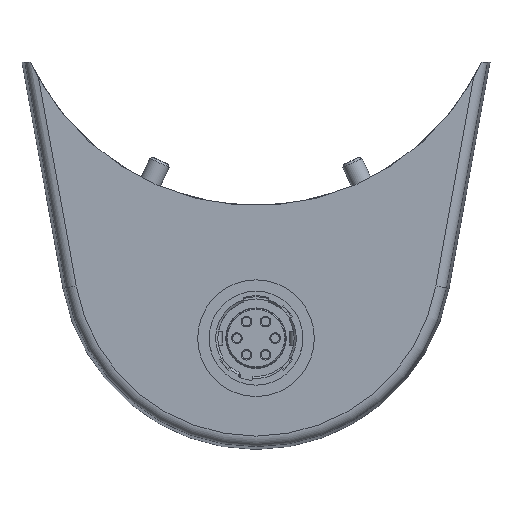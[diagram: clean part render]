
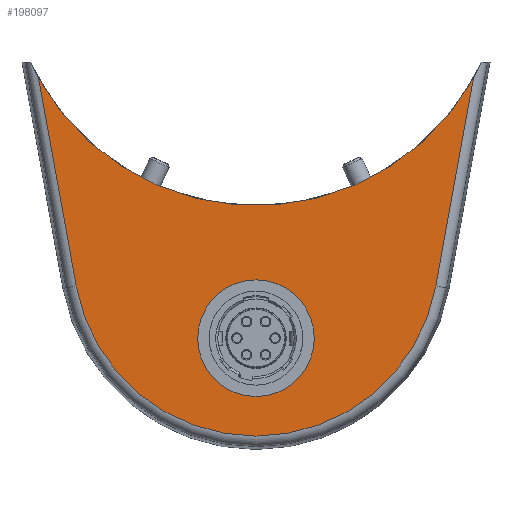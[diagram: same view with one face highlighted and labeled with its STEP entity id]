
A CAD part, front view. The second image highlights one B-rep face of the part: STEP entity #198097.
In plain terms, the highlighted planar face has unit normal (0, -1, 0).
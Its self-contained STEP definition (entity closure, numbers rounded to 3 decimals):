
#9419=FACE_BOUND('',#27411,.T.);
#15749=FACE_OUTER_BOUND('',#27410,.T.);
#27410=EDGE_LOOP('',(#133167,#133168,#133169,#133170));
#27411=EDGE_LOOP('',(#133171,#133172,#133173,#133174));
#39516=CIRCLE('',#216521,23.5);
#39556=CIRCLE('',#216585,17.237);
#39557=CIRCLE('',#216586,4.);
#43147=LINE('',#281903,#64472);
#43148=LINE('',#281906,#64473);
#43149=LINE('',#281909,#64474);
#43150=LINE('',#281913,#64475);
#43151=LINE('',#281914,#64476);
#64472=VECTOR('',#231283,1000.);
#64473=VECTOR('',#231286,1000.);
#64474=VECTOR('',#231287,1000.);
#64475=VECTOR('',#231290,1000.);
#64476=VECTOR('',#231291,1000.);
#85748=VERTEX_POINT('',#281546);
#85749=VERTEX_POINT('',#281551);
#85845=VERTEX_POINT('',#281902);
#85846=VERTEX_POINT('',#281904);
#85847=VERTEX_POINT('',#281907);
#85848=VERTEX_POINT('',#281908);
#85849=VERTEX_POINT('',#281910);
#85850=VERTEX_POINT('',#281912);
#104278=EDGE_CURVE('',#85748,#85749,#39516,.T.);
#104396=EDGE_CURVE('',#85748,#85845,#43147,.T.);
#104397=EDGE_CURVE('',#85845,#85846,#39556,.T.);
#104398=EDGE_CURVE('',#85846,#85749,#43148,.T.);
#104399=EDGE_CURVE('',#85847,#85848,#43149,.T.);
#104400=EDGE_CURVE('',#85849,#85847,#39557,.T.);
#104401=EDGE_CURVE('',#85850,#85849,#43150,.T.);
#104402=EDGE_CURVE('',#85848,#85850,#43151,.T.);
#133167=ORIENTED_EDGE('',*,*,#104278,.F.);
#133168=ORIENTED_EDGE('',*,*,#104396,.T.);
#133169=ORIENTED_EDGE('',*,*,#104397,.T.);
#133170=ORIENTED_EDGE('',*,*,#104398,.T.);
#133171=ORIENTED_EDGE('',*,*,#104399,.F.);
#133172=ORIENTED_EDGE('',*,*,#104400,.F.);
#133173=ORIENTED_EDGE('',*,*,#104401,.F.);
#133174=ORIENTED_EDGE('',*,*,#104402,.F.);
#190471=PLANE('',#216584);
#198097=ADVANCED_FACE('',(#15749,#9419),#190471,.F.);
#216521=AXIS2_PLACEMENT_3D('',#281552,#231098,#231099);
#216584=AXIS2_PLACEMENT_3D('',#281901,#231281,#231282);
#216585=AXIS2_PLACEMENT_3D('',#281905,#231284,#231285);
#216586=AXIS2_PLACEMENT_3D('',#281911,#231288,#231289);
#231098=DIRECTION('center_axis',(0.,-1.,0.));
#231099=DIRECTION('ref_axis',(0.,0.,
1.));
#231281=DIRECTION('center_axis',(0.,1.,0.));
#231282=DIRECTION('ref_axis',(0.,0.,
1.));
#231283=DIRECTION('',(0.179,0.,-0.984));
#231284=DIRECTION('center_axis',(0.,-1.,0.));
#231285=DIRECTION('ref_axis',(0.,0.,
1.));
#231286=DIRECTION('',(0.179,0.,0.984));
#231287=DIRECTION('',(0.,0.,1.));
#231288=DIRECTION('center_axis',(0.,-1.,0.));
#231289=DIRECTION('ref_axis',(0.,0.,
-1.));
#231290=DIRECTION('',(0.,0.,-1.));
#231291=DIRECTION('',(-1.,0.,0.));
#281546=CARTESIAN_POINT('',(-20.522,0.,-11.45));
#281551=CARTESIAN_POINT('',(20.522,0.,-11.45));
#281552=CARTESIAN_POINT('Origin',(0.,0.,0.));
#281901=CARTESIAN_POINT('Origin',(0.,0.,
-28.));
#281902=CARTESIAN_POINT('',(-16.96,0.,-31.078));
#281903=CARTESIAN_POINT('',(-16.96,0.,-31.078));
#281904=CARTESIAN_POINT('',(16.96,0.,-31.078));
#281905=CARTESIAN_POINT('Origin',(0.,0.,
-28.));
#281906=CARTESIAN_POINT('',(16.96,0.,-31.078));
#281907=CARTESIAN_POINT('',(0.75,0.,-32.071));
#281908=CARTESIAN_POINT('',(0.75,0.,-30.8));
#281909=CARTESIAN_POINT('',(0.75,0.,-32.071));
#281910=CARTESIAN_POINT('',(-0.75,0.,-32.071));
#281911=CARTESIAN_POINT('Origin',(0.,0.,-36.));
#281912=CARTESIAN_POINT('',(-0.75,0.,-30.8));
#281913=CARTESIAN_POINT('',(-0.75,0.,-30.8));
#281914=CARTESIAN_POINT('',(0.75,0.,-30.8));
